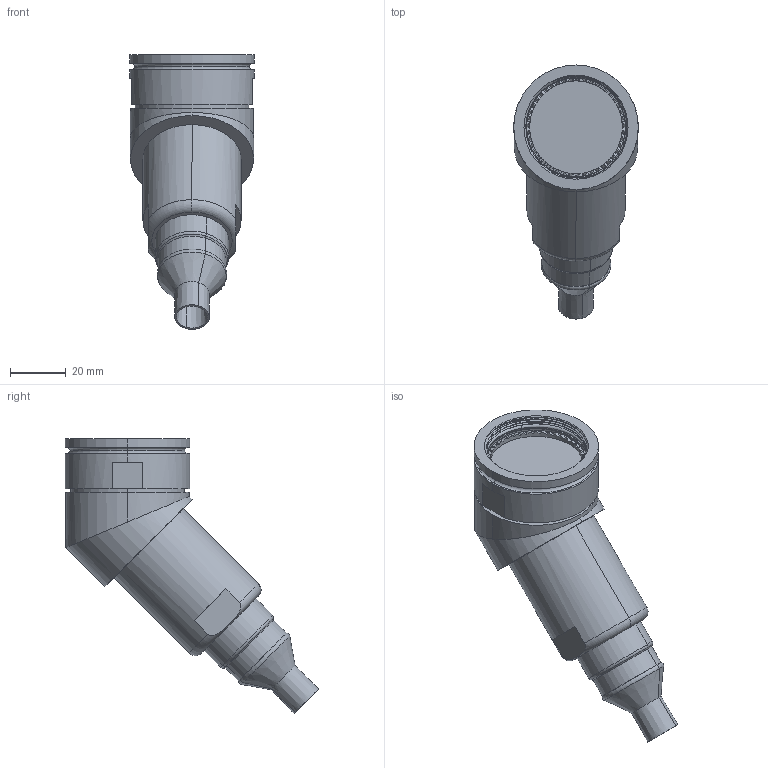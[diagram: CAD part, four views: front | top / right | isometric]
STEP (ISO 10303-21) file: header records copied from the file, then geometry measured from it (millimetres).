
FILE_DESCRIPTION (( 'STEP AP214' ), '1' );
FILE_NAME ('Q38SHELL-45X-25-XXXX-HX.STEP', '2025-09-25T20:11:09', ( '' ), ( '' ), 'SwSTEP 2.0', 'SolidWorks 2024', '' );
FILE_SCHEMA (( 'AUTOMOTIVE_DESIGN' ));
Length unit declared in the file: inch
Products named in the file (1): Q38SHELL-45X-25-XXXX-HX
Bounding box: 44.88 x 91.4 x 99.05 mm (x, y, z)
Volume: 105241.2 mm3; surface area: 20762.4 mm2
Topology: 2 solids, 2 shells, 275 faces, 746 edges, 488 vertices
Faces by surface type: plane 201, cylinder 39, cone 18, torus 14, bspline 3
Entity records: 9710 total; most frequent: CARTESIAN_POINT 3059, ORIENTED_EDGE 1492, DIRECTION 1384, EDGE_CURVE 746, AXIS2_PLACEMENT_3D 569, VERTEX_POINT 488, CIRCLE 296, EDGE_LOOP 290
